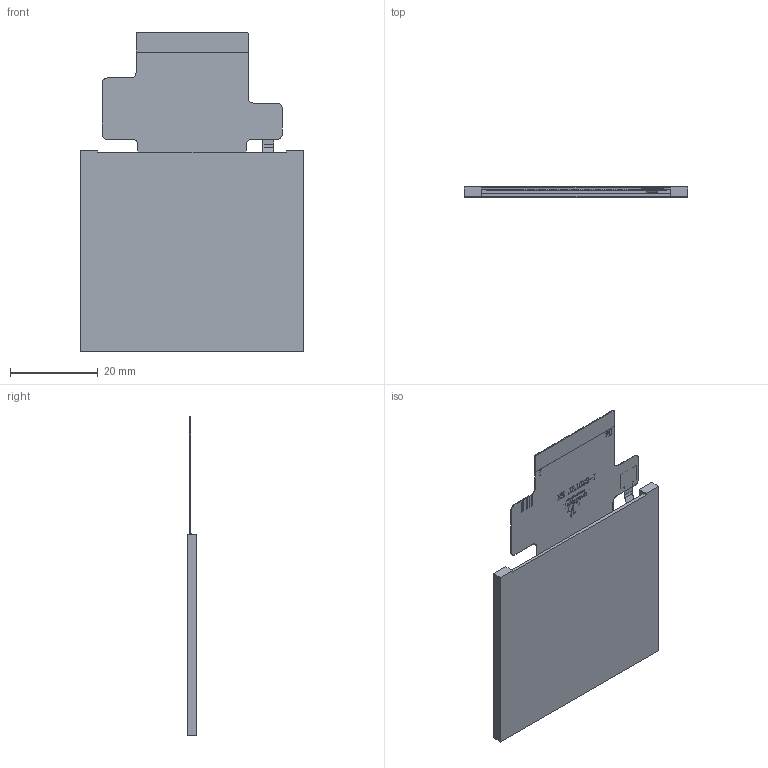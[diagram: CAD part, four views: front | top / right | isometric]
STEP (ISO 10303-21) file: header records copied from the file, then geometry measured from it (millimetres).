
FILE_DESCRIPTION (( 'STEP AP214' ), '1' );
FILE_NAME ('ER-TFT023-1.STEP', '2023-09-20T11:56:37', ( 'PC' ), ( 'Microsoft' ), 'SwSTEP 2.0', 'SolidWorks 2020', '' );
FILE_SCHEMA (( 'AUTOMOTIVE_DESIGN' ));
Length unit declared in the file: millimetre
Products named in the file (4): 沺遺; 4no_3ogo; FOG; ER-TFT023-1
Assembly tree (3 placements, depth 2):
  ER-TFT023-1
    沺遺
    FOG
    4no_3ogo
Bounding box: 50.9 x 2.25 x 72.7 mm (x, y, z)
Volume: 5046 mm3; surface area: 15312.2 mm2
Topology: 35 solids, 35 shells, 765 faces, 2134 edges, 1466 vertices
Faces by surface type: plane 485, bspline 266, cylinder 14
Entity records: 41038 total; most frequent: CARTESIAN_POINT 18661, ORIENTED_EDGE 4268, DIRECTION 2640, EDGE_CURVE 2134, VECTOR 1574, LINE 1574, VERTEX_POINT 1466, EDGE_LOOP 810
